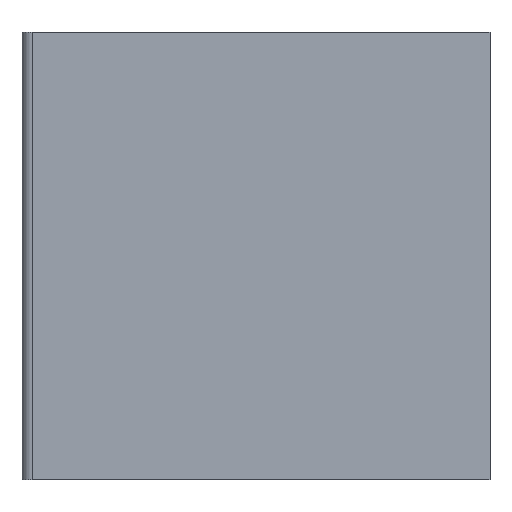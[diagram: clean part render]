
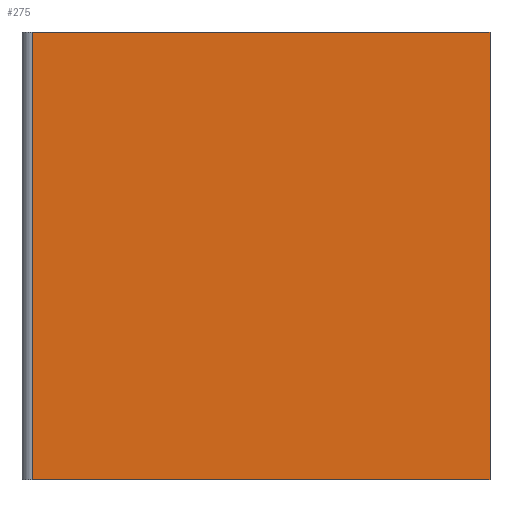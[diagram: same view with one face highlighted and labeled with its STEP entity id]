
A CAD part, top view. The second image highlights one B-rep face of the part: STEP entity #275.
In plain terms, the highlighted planar face has unit normal (0, 0, 1).
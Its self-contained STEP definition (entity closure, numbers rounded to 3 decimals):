
#22 = VERTEX_POINT('',#23);
#23 = CARTESIAN_POINT('',(130.,-138.913,81.6));
#45 = PLANE('',#46);
#46 = AXIS2_PLACEMENT_3D('',#47,#48,#49);
#47 = CARTESIAN_POINT('',(130.,-138.913,79.6));
#48 = DIRECTION('',(-0.,1.,0.));
#49 = DIRECTION('',(0.,0.,1.));
#89 = VERTEX_POINT('',#90);
#90 = CARTESIAN_POINT('',(175.,-138.913,81.6));
#104 = PLANE('',#105);
#105 = AXIS2_PLACEMENT_3D('',#106,#107,#108);
#106 = CARTESIAN_POINT('',(175.,-138.913,79.6));
#107 = DIRECTION('',(1.,0.,-0.));
#108 = DIRECTION('',(0.,0.,1.));
#143 = EDGE_CURVE('',#22,#89,#144,.T.);
#144 = SURFACE_CURVE('',#145,(#149,#156),.PCURVE_S1.);
#145 = LINE('',#146,#147);
#146 = CARTESIAN_POINT('',(130.,-138.913,81.6));
#147 = VECTOR('',#148,1.);
#148 = DIRECTION('',(1.,0.,-0.));
#149 = PCURVE('',#45,#150);
#150 = DEFINITIONAL_REPRESENTATION('',(#151),#155);
#151 = LINE('',#152,#153);
#152 = CARTESIAN_POINT('',(2.,0.));
#153 = VECTOR('',#154,1.);
#154 = DIRECTION('',(0.,1.));
#155 = ( GEOMETRIC_REPRESENTATION_CONTEXT(2) 
PARAMETRIC_REPRESENTATION_CONTEXT() REPRESENTATION_CONTEXT('2D SPACE',''
  ) );
#156 = PCURVE('',#157,#162);
#157 = PLANE('',#158);
#158 = AXIS2_PLACEMENT_3D('',#159,#160,#161);
#159 = CARTESIAN_POINT('',(130.,-138.913,81.6));
#160 = DIRECTION('',(0.,0.,1.));
#161 = DIRECTION('',(1.,0.,-0.));
#162 = DEFINITIONAL_REPRESENTATION('',(#163),#167);
#163 = LINE('',#164,#165);
#164 = CARTESIAN_POINT('',(0.,0.));
#165 = VECTOR('',#166,1.);
#166 = DIRECTION('',(1.,0.));
#167 = ( GEOMETRIC_REPRESENTATION_CONTEXT(2) 
PARAMETRIC_REPRESENTATION_CONTEXT() REPRESENTATION_CONTEXT('2D SPACE',''
  ) );
#187 = CYLINDRICAL_SURFACE('',#188,1.);
#188 = AXIS2_PLACEMENT_3D('',#189,#190,#191);
#189 = CARTESIAN_POINT('',(130.,-138.913,80.6));
#190 = DIRECTION('',(0.,1.,0.));
#191 = DIRECTION('',(0.,-0.,1.));
#228 = VERTEX_POINT('',#229);
#229 = CARTESIAN_POINT('',(175.,-94.913,81.6));
#243 = PLANE('',#244);
#244 = AXIS2_PLACEMENT_3D('',#245,#246,#247);
#245 = CARTESIAN_POINT('',(130.,-94.913,79.6));
#246 = DIRECTION('',(-0.,1.,0.));
#247 = DIRECTION('',(0.,0.,1.));
#255 = EDGE_CURVE('',#89,#228,#256,.T.);
#256 = SURFACE_CURVE('',#257,(#261,#268),.PCURVE_S1.);
#257 = LINE('',#258,#259);
#258 = CARTESIAN_POINT('',(175.,-138.913,81.6));
#259 = VECTOR('',#260,1.);
#260 = DIRECTION('',(-0.,1.,0.));
#261 = PCURVE('',#104,#262);
#262 = DEFINITIONAL_REPRESENTATION('',(#263),#267);
#263 = LINE('',#264,#265);
#264 = CARTESIAN_POINT('',(2.,0.));
#265 = VECTOR('',#266,1.);
#266 = DIRECTION('',(0.,-1.));
#267 = ( GEOMETRIC_REPRESENTATION_CONTEXT(2) 
PARAMETRIC_REPRESENTATION_CONTEXT() REPRESENTATION_CONTEXT('2D SPACE',''
  ) );
#268 = PCURVE('',#157,#269);
#269 = DEFINITIONAL_REPRESENTATION('',(#270),#274);
#270 = LINE('',#271,#272);
#271 = CARTESIAN_POINT('',(45.,0.));
#272 = VECTOR('',#273,1.);
#273 = DIRECTION('',(0.,1.));
#274 = ( GEOMETRIC_REPRESENTATION_CONTEXT(2) 
PARAMETRIC_REPRESENTATION_CONTEXT() REPRESENTATION_CONTEXT('2D SPACE',''
  ) );
#275 = ADVANCED_FACE('',(#276),#157,.T.);
#276 = FACE_BOUND('',#277,.T.);
#277 = EDGE_LOOP('',(#278,#300,#301,#302));
#278 = ORIENTED_EDGE('',*,*,#279,.F.);
#279 = EDGE_CURVE('',#22,#280,#282,.T.);
#280 = VERTEX_POINT('',#281);
#281 = CARTESIAN_POINT('',(130.,-94.913,81.6));
#282 = SURFACE_CURVE('',#283,(#287,#294),.PCURVE_S1.);
#283 = LINE('',#284,#285);
#284 = CARTESIAN_POINT('',(130.,-138.913,81.6));
#285 = VECTOR('',#286,1.);
#286 = DIRECTION('',(-0.,1.,0.));
#287 = PCURVE('',#157,#288);
#288 = DEFINITIONAL_REPRESENTATION('',(#289),#293);
#289 = LINE('',#290,#291);
#290 = CARTESIAN_POINT('',(0.,0.));
#291 = VECTOR('',#292,1.);
#292 = DIRECTION('',(0.,1.));
#293 = ( GEOMETRIC_REPRESENTATION_CONTEXT(2) 
PARAMETRIC_REPRESENTATION_CONTEXT() REPRESENTATION_CONTEXT('2D SPACE',''
  ) );
#294 = PCURVE('',#187,#295);
#295 = DEFINITIONAL_REPRESENTATION('',(#296),#299);
#296 = B_SPLINE_CURVE_WITH_KNOTS('',1,(#297,#298),.UNSPECIFIED.,.F.,.F.,
  (2,2),(0.,44.),.PIECEWISE_BEZIER_KNOTS.);
#297 = CARTESIAN_POINT('',(6.283,0.));
#298 = CARTESIAN_POINT('',(6.283,44.));
#299 = ( GEOMETRIC_REPRESENTATION_CONTEXT(2) 
PARAMETRIC_REPRESENTATION_CONTEXT() REPRESENTATION_CONTEXT('2D SPACE',''
  ) );
#300 = ORIENTED_EDGE('',*,*,#143,.T.);
#301 = ORIENTED_EDGE('',*,*,#255,.T.);
#302 = ORIENTED_EDGE('',*,*,#303,.F.);
#303 = EDGE_CURVE('',#280,#228,#304,.T.);
#304 = SURFACE_CURVE('',#305,(#309,#316),.PCURVE_S1.);
#305 = LINE('',#306,#307);
#306 = CARTESIAN_POINT('',(130.,-94.913,81.6));
#307 = VECTOR('',#308,1.);
#308 = DIRECTION('',(1.,0.,-0.));
#309 = PCURVE('',#157,#310);
#310 = DEFINITIONAL_REPRESENTATION('',(#311),#315);
#311 = LINE('',#312,#313);
#312 = CARTESIAN_POINT('',(0.,44.));
#313 = VECTOR('',#314,1.);
#314 = DIRECTION('',(1.,0.));
#315 = ( GEOMETRIC_REPRESENTATION_CONTEXT(2) 
PARAMETRIC_REPRESENTATION_CONTEXT() REPRESENTATION_CONTEXT('2D SPACE',''
  ) );
#316 = PCURVE('',#243,#317);
#317 = DEFINITIONAL_REPRESENTATION('',(#318),#322);
#318 = LINE('',#319,#320);
#319 = CARTESIAN_POINT('',(2.,0.));
#320 = VECTOR('',#321,1.);
#321 = DIRECTION('',(0.,1.));
#322 = ( GEOMETRIC_REPRESENTATION_CONTEXT(2) 
PARAMETRIC_REPRESENTATION_CONTEXT() REPRESENTATION_CONTEXT('2D SPACE',''
  ) );
